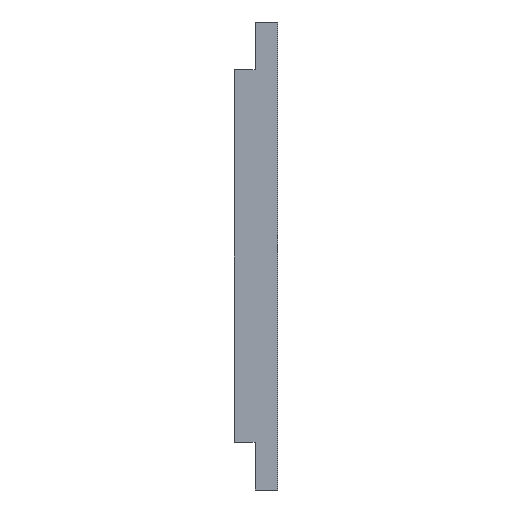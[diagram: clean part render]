
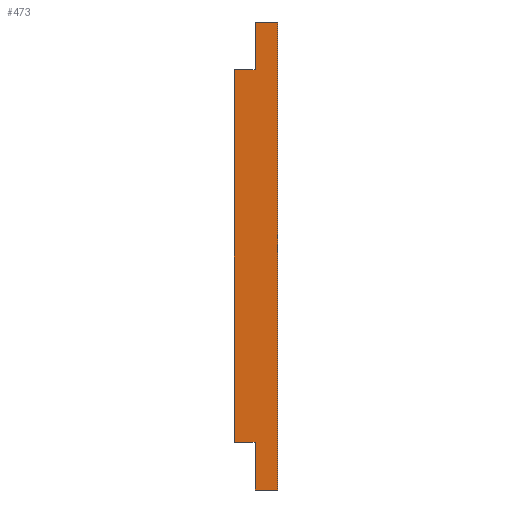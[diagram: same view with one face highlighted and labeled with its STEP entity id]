
A CAD part, left-side view. The second image highlights one B-rep face of the part: STEP entity #473.
In plain terms, the highlighted planar face has unit normal (-1, 0, -0.024).
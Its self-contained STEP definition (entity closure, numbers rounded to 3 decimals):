
#347 = EDGE_CURVE ( 'NONE', #401, #366, #1689, .T. ) ;
#354 = VERTEX_POINT ( 'NONE', #1608 ) ;
#366 = VERTEX_POINT ( 'NONE', #1709 ) ;
#371 = EDGE_CURVE ( 'NONE', #354, #513, #1756, .T. ) ;
#401 = VERTEX_POINT ( 'NONE', #1860 ) ;
#416 = EDGE_LOOP ( 'NONE', ( #417, #460, #459, #458, #457, #452, #435, #420 ) ) ;
#417 = ORIENTED_EDGE ( 'NONE', *, *, #448, .T. ) ;
#420 = ORIENTED_EDGE ( 'NONE', *, *, #470, .T. ) ;
#427 = VERTEX_POINT ( 'NONE', #1923 ) ;
#435 = ORIENTED_EDGE ( 'NONE', *, *, #474, .F. ) ;
#443 = EDGE_CURVE ( 'NONE', #401, #486, #1910, .T. ) ;
#448 = EDGE_CURVE ( 'NONE', #476, #482, #1966, .T. ) ;
#452 = ORIENTED_EDGE ( 'NONE', *, *, #371, .F. ) ;
#454 = EDGE_CURVE ( 'NONE', #513, #486, #1959, .T. ) ;
#457 = ORIENTED_EDGE ( 'NONE', *, *, #454, .F. ) ;
#458 = ORIENTED_EDGE ( 'NONE', *, *, #443, .T. ) ;
#459 = ORIENTED_EDGE ( 'NONE', *, *, #347, .F. ) ;
#460 = ORIENTED_EDGE ( 'NONE', *, *, #462, .F. ) ;
#462 = EDGE_CURVE ( 'NONE', #366, #482, #1949, .T. ) ;
#470 = EDGE_CURVE ( 'NONE', #427, #476, #1981, .T. ) ;
#473 = ADVANCED_FACE ( 'NONE', ( #1996 ), #1984, .F. ) ;
#474 = EDGE_CURVE ( 'NONE', #427, #354, #1975, .T. ) ;
#476 = VERTEX_POINT ( 'NONE', #1992 ) ;
#482 = VERTEX_POINT ( 'NONE', #1976 ) ;
#486 = VERTEX_POINT ( 'NONE', #2022 ) ;
#513 = VERTEX_POINT ( 'NONE', #2046 ) ;
#1608 = CARTESIAN_POINT ( 'NONE',  ( 638.836, 6.1, -121.419 ) ) ;
#1686 = DIRECTION ( 'NONE',  ( -0.024, 0., 1. ) ) ;
#1687 = VECTOR ( 'NONE', #1686, 1000. ) ;
#1688 = CARTESIAN_POINT ( 'NONE',  ( 637.567, 6.1, -68.749 ) ) ;
#1689 = LINE ( 'NONE', #1688, #1687 ) ;
#1709 = CARTESIAN_POINT ( 'NONE',  ( 636.109, 6.1, -8.289 ) ) ;
#1756 = LINE ( 'NONE', #1803, #1802 ) ;
#1801 = DIRECTION ( 'NONE',  ( 0., 1., 0. ) ) ;
#1802 = VECTOR ( 'NONE', #1801, 1000. ) ;
#1803 = CARTESIAN_POINT ( 'NONE',  ( 638.836, -312.503, -121.419 ) ) ;
#1860 = CARTESIAN_POINT ( 'NONE',  ( 636.419, 6.1, -21.159 ) ) ;
#1908 = VECTOR ( 'NONE', #1973, 1000. ) ;
#1909 = CARTESIAN_POINT ( 'NONE',  ( 636.419, -312.503, -21.159 ) ) ;
#1910 = LINE ( 'NONE', #1909, #1908 ) ;
#1923 = CARTESIAN_POINT ( 'NONE',  ( 639.147, 6.1, -134.289 ) ) ;
#1944 = DIRECTION ( 'NONE',  ( -0.024, 0., 1. ) ) ;
#1945 = VECTOR ( 'NONE', #1944, 1000. ) ;
#1949 = LINE ( 'NONE', #1987, #1986 ) ;
#1958 = CARTESIAN_POINT ( 'NONE',  ( 638.836, 11.7, -121.419 ) ) ;
#1959 = LINE ( 'NONE', #1958, #1945 ) ;
#1962 = DIRECTION ( 'NONE',  ( -0.024, 0., 1. ) ) ;
#1963 = VECTOR ( 'NONE', #1962, 1000. ) ;
#1965 = CARTESIAN_POINT ( 'NONE',  ( 637.567, 0., -68.749 ) ) ;
#1966 = LINE ( 'NONE', #1965, #1963 ) ;
#1973 = DIRECTION ( 'NONE',  ( 0., 1., 0. ) ) ;
#1975 = LINE ( 'NONE', #2026, #2025 ) ;
#1976 = CARTESIAN_POINT ( 'NONE',  ( 636.109, 0., -8.289 ) ) ;
#1977 = AXIS2_PLACEMENT_3D ( 'NONE', #1983, #2031, #2030 ) ;
#1978 = DIRECTION ( 'NONE',  ( 0., -1., 0. ) ) ;
#1979 = VECTOR ( 'NONE', #1978, 1000. ) ;
#1980 = CARTESIAN_POINT ( 'NONE',  ( 639.147, 6.1, -134.289 ) ) ;
#1981 = LINE ( 'NONE', #1980, #1979 ) ;
#1983 = CARTESIAN_POINT ( 'NONE',  ( 637.567, 6.1, -68.749 ) ) ;
#1984 = PLANE ( 'NONE',  #1977 ) ;
#1985 = DIRECTION ( 'NONE',  ( 0., -1., 0. ) ) ;
#1986 = VECTOR ( 'NONE', #1985, 1000. ) ;
#1987 = CARTESIAN_POINT ( 'NONE',  ( 636.109, 6.1, -8.289 ) ) ;
#1992 = CARTESIAN_POINT ( 'NONE',  ( 639.147, 0., -134.289 ) ) ;
#1996 = FACE_OUTER_BOUND ( 'NONE', #416, .T. ) ;
#2022 = CARTESIAN_POINT ( 'NONE',  ( 636.419, 11.7, -21.159 ) ) ;
#2024 = DIRECTION ( 'NONE',  ( -0.024, 0., 1. ) ) ;
#2025 = VECTOR ( 'NONE', #2024, 1000. ) ;
#2026 = CARTESIAN_POINT ( 'NONE',  ( 637.567, 6.1, -68.749 ) ) ;
#2030 = DIRECTION ( 'NONE',  ( 0.024, 0., -1. ) ) ;
#2031 = DIRECTION ( 'NONE',  ( 1., 0., 0.024 ) ) ;
#2046 = CARTESIAN_POINT ( 'NONE',  ( 638.836, 11.7, -121.419 ) ) ;
